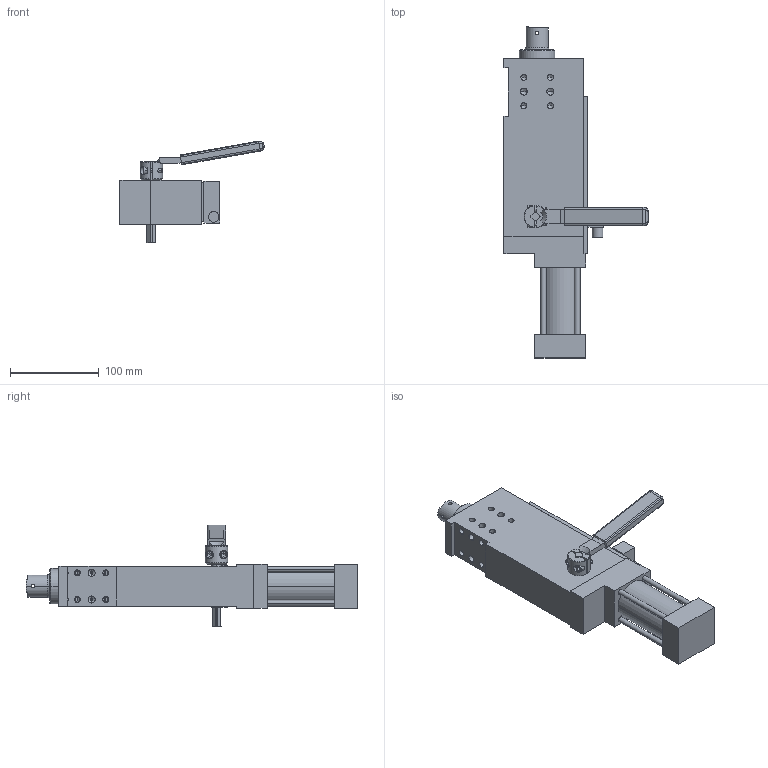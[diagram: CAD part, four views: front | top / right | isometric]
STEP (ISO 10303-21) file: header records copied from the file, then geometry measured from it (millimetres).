
FILE_DESCRIPTION((''),'2;1');
FILE_NAME('S:\Tom\INVENTOR FILES\AUTOMOTIVE\LOCATORS\XLPR 40-ML-40\SOLID MODELS\XLPR40-ML-ES1-40-S10.stp','2009-11-29T13:47:10',('carl'),(''),'Autodesk Inventor 8','Autodesk Inventor 8','');
FILE_SCHEMA(('AUTOMOTIVE_DESIGN { 1 0 10303 214 1 1 1 1 }'));
Length unit declared in the file: millimetre
Products named in the file (4): XLPR40-ML-ES1-40-S10; XLPR40-ML-ES1-40-S101; XLPR40-ML-ES1-40-S102; XLPR40-ML-ES1-40-S103
Assembly tree (3 placements, depth 2):
  XLPR40-ML-ES1-40-S10
    XLPR40-ML-ES1-40-S101
    XLPR40-ML-ES1-40-S102
    XLPR40-ML-ES1-40-S103
Bounding box: 162.64 x 374.5 x 115.01 mm (x, y, z)
Volume: 1297369.1 mm3; surface area: 138291.8 mm2
Topology: 3 solids, 4 shells, 329 faces, 860 edges, 517 vertices
Faces by surface type: plane 119, bspline 114, cylinder 73, cone 23
Entity records: 12840 total; most frequent: CARTESIAN_POINT 5236, ORIENTED_EDGE 1624, DIRECTION 1466, EDGE_CURVE 812, VERTEX_POINT 517, AXIS2_PLACEMENT_3D 516, VECTOR 434, LINE 434
